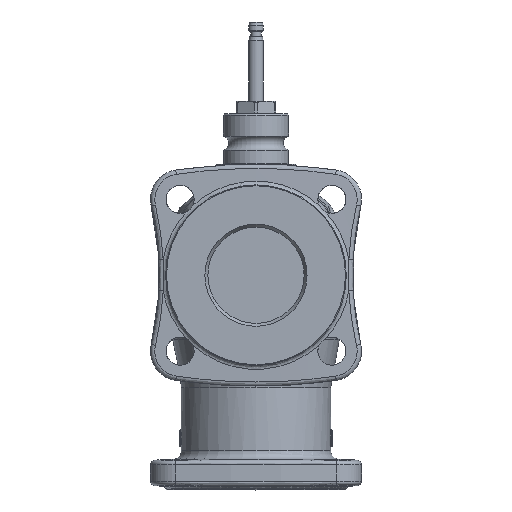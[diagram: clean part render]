
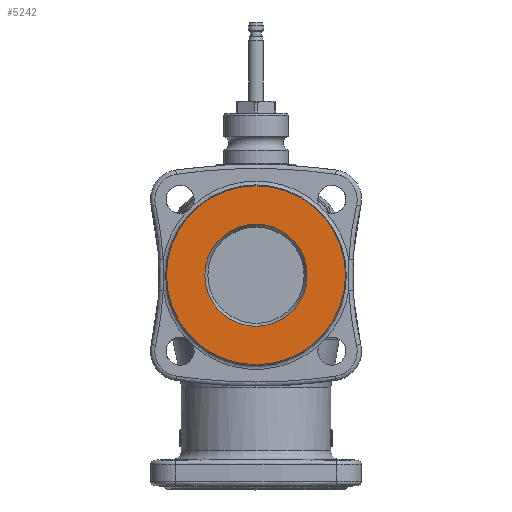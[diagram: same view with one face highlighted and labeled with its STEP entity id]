
A CAD part, front view. The second image highlights one B-rep face of the part: STEP entity #5242.
In plain terms, the highlighted planar face has unit normal (0, -1, 0).
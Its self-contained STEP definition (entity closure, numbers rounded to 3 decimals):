
#2768=PLANE('',#20555);
#5242=ADVANCED_FACE('',(#6850,#6851),#2768,.T.);
#6850=FACE_BOUND('',#7048,.T.);
#6851=FACE_BOUND('',#7049,.T.);
#7048=EDGE_LOOP('',(#8669));
#7049=EDGE_LOOP('',(#8670));
#8669=ORIENTED_EDGE('',*,*,#16512,.F.);
#8670=ORIENTED_EDGE('',*,*,#16513,.T.);
#14724=VERTEX_POINT('',#26187);
#14725=VERTEX_POINT('',#26189);
#16512=EDGE_CURVE('',#14724,#14724,#19521,.T.);
#16513=EDGE_CURVE('',#14725,#14725,#19522,.T.);
#19521=CIRCLE('',#20553,60.443);
#19522=CIRCLE('',#20554,34.5);
#20553=AXIS2_PLACEMENT_3D('',#26186,#22208,#22209);
#20554=AXIS2_PLACEMENT_3D('',#26188,#22210,#22211);
#20555=AXIS2_PLACEMENT_3D('',#26190,#22212,#22213);
#22208=DIRECTION('',(0.,1.,0.));
#22209=DIRECTION('',(0.,0.,-1.));
#22210=DIRECTION('',(0.,1.,0.));
#22211=DIRECTION('',(0.,0.,-1.));
#22212=DIRECTION('',(0.,-1.,0.));
#22213=DIRECTION('',(0.,0.,1.));
#26186=CARTESIAN_POINT('',(0.,-145.,0.));
#26187=CARTESIAN_POINT('',(0.,-145.,-60.443));
#26188=CARTESIAN_POINT('',(0.,-145.,0.));
#26189=CARTESIAN_POINT('',(0.,-145.,-34.5));
#26190=CARTESIAN_POINT('',(0.,-145.,0.));
